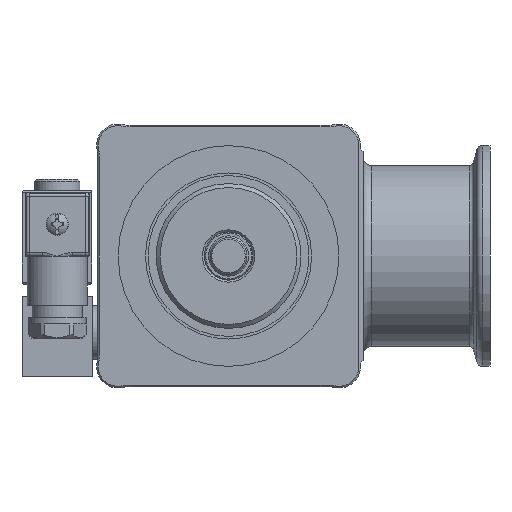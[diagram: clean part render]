
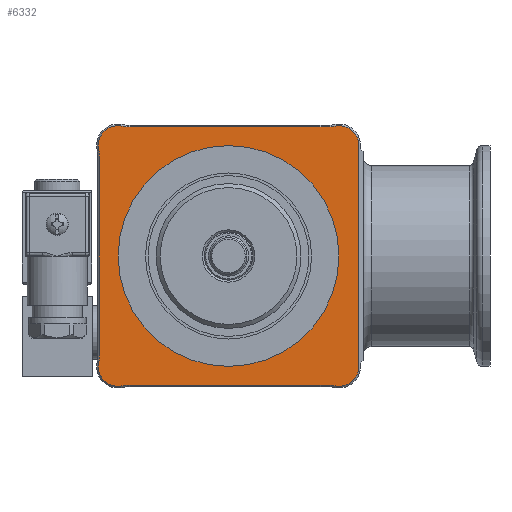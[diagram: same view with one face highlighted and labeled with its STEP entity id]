
A CAD part, front view. The second image highlights one B-rep face of the part: STEP entity #6332.
In plain terms, the highlighted planar face has unit normal (0, -1, 0).
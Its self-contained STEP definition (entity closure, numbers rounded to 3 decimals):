
#2078=LINE('',#21281,#3162);
#2079=LINE('',#21287,#3163);
#2080=LINE('',#21295,#3164);
#2081=LINE('',#21303,#3165);
#3162=VECTOR('',#17529,1.);
#3163=VECTOR('',#17534,1.);
#3164=VECTOR('',#17541,1.);
#3165=VECTOR('',#17548,1.);
#5822=FACE_BOUND('',#8128,.T.);
#5823=FACE_BOUND('',#8129,.T.);
#6332=ADVANCED_FACE('',(#5822,#5823),#7059,.F.);
#7059=PLANE('',#16023);
#8128=EDGE_LOOP('',(#9287));
#8129=EDGE_LOOP('',(#9288,#9289,#9290,#9291,#9292,#9293,#9294,#9295,#9296,
#9297,#9298,#9299,#9300,#9301));
#9287=ORIENTED_EDGE('',*,*,#13791,.T.);
#9288=ORIENTED_EDGE('',*,*,#13792,.T.);
#9289=ORIENTED_EDGE('',*,*,#13793,.T.);
#9290=ORIENTED_EDGE('',*,*,#13794,.T.);
#9291=ORIENTED_EDGE('',*,*,#13795,.T.);
#9292=ORIENTED_EDGE('',*,*,#13796,.T.);
#9293=ORIENTED_EDGE('',*,*,#13797,.T.);
#9294=ORIENTED_EDGE('',*,*,#13798,.T.);
#9295=ORIENTED_EDGE('',*,*,#13799,.T.);
#9296=ORIENTED_EDGE('',*,*,#13800,.T.);
#9297=ORIENTED_EDGE('',*,*,#13801,.T.);
#9298=ORIENTED_EDGE('',*,*,#13802,.T.);
#9299=ORIENTED_EDGE('',*,*,#13803,.T.);
#9300=ORIENTED_EDGE('',*,*,#13804,.T.);
#9301=ORIENTED_EDGE('',*,*,#13805,.T.);
#12572=VERTEX_POINT('',#21277);
#12573=VERTEX_POINT('',#21279);
#12574=VERTEX_POINT('',#21280);
#12575=VERTEX_POINT('',#21282);
#12576=VERTEX_POINT('',#21284);
#12577=VERTEX_POINT('',#21286);
#12578=VERTEX_POINT('',#21288);
#12579=VERTEX_POINT('',#21290);
#12580=VERTEX_POINT('',#21292);
#12581=VERTEX_POINT('',#21294);
#12582=VERTEX_POINT('',#21296);
#12583=VERTEX_POINT('',#21298);
#12584=VERTEX_POINT('',#21300);
#12585=VERTEX_POINT('',#21302);
#12586=VERTEX_POINT('',#21304);
#13791=EDGE_CURVE('',#12572,#12572,#15412,.T.);
#13792=EDGE_CURVE('',#12573,#12574,#15413,.T.);
#13793=EDGE_CURVE('',#12574,#12575,#2078,.T.);
#13794=EDGE_CURVE('',#12575,#12576,#15414,.T.);
#13795=EDGE_CURVE('',#12576,#12577,#15415,.T.);
#13796=EDGE_CURVE('',#12577,#12578,#2079,.T.);
#13797=EDGE_CURVE('',#12578,#12579,#15416,.T.);
#13798=EDGE_CURVE('',#12579,#12580,#15417,.T.);
#13799=EDGE_CURVE('',#12580,#12581,#15418,.T.);
#13800=EDGE_CURVE('',#12581,#12582,#2080,.T.);
#13801=EDGE_CURVE('',#12582,#12583,#15419,.T.);
#13802=EDGE_CURVE('',#12583,#12584,#15420,.T.);
#13803=EDGE_CURVE('',#12584,#12585,#15421,.T.);
#13804=EDGE_CURVE('',#12585,#12586,#2081,.T.);
#13805=EDGE_CURVE('',#12586,#12573,#15422,.T.);
#15412=CIRCLE('',#16012,24.5);
#15413=CIRCLE('',#16013,4.9);
#15414=CIRCLE('',#16014,4.9);
#15415=CIRCLE('',#16015,10.4);
#15416=CIRCLE('',#16016,10.4);
#15417=CIRCLE('',#16017,4.9);
#15418=CIRCLE('',#16018,10.4);
#15419=CIRCLE('',#16019,10.4);
#15420=CIRCLE('',#16020,4.9);
#15421=CIRCLE('',#16021,10.4);
#15422=CIRCLE('',#16022,10.4);
#16012=AXIS2_PLACEMENT_3D('',#21276,#17525,#17526);
#16013=AXIS2_PLACEMENT_3D('',#21278,#17527,#17528);
#16014=AXIS2_PLACEMENT_3D('',#21283,#17530,#17531);
#16015=AXIS2_PLACEMENT_3D('',#21285,#17532,#17533);
#16016=AXIS2_PLACEMENT_3D('',#21289,#17535,#17536);
#16017=AXIS2_PLACEMENT_3D('',#21291,#17537,#17538);
#16018=AXIS2_PLACEMENT_3D('',#21293,#17539,#17540);
#16019=AXIS2_PLACEMENT_3D('',#21297,#17542,#17543);
#16020=AXIS2_PLACEMENT_3D('',#21299,#17544,#17545);
#16021=AXIS2_PLACEMENT_3D('',#21301,#17546,#17547);
#16022=AXIS2_PLACEMENT_3D('',#21305,#17549,#17550);
#16023=AXIS2_PLACEMENT_3D('',#21306,#17551,#17552);
#17525=DIRECTION('',(0.,1.,0.));
#17526=DIRECTION('',(0.,0.,1.));
#17527=DIRECTION('',(0.,-1.,0.));
#17528=DIRECTION('',(0.,0.,1.));
#17529=DIRECTION('',(0.,0.,1.));
#17530=DIRECTION('',(0.,-1.,0.));
#17531=DIRECTION('',(0.,0.,1.));
#17532=DIRECTION('',(0.,1.,0.));
#17533=DIRECTION('',(0.,0.,1.));
#17534=DIRECTION('',(-1.,0.,0.));
#17535=DIRECTION('',(0.,1.,0.));
#17536=DIRECTION('',(0.,0.,1.));
#17537=DIRECTION('',(0.,-1.,0.));
#17538=DIRECTION('',(0.,0.,1.));
#17539=DIRECTION('',(0.,1.,0.));
#17540=DIRECTION('',(0.,0.,1.));
#17541=DIRECTION('',(0.,0.,-1.));
#17542=DIRECTION('',(0.,1.,0.));
#17543=DIRECTION('',(0.,0.,1.));
#17544=DIRECTION('',(0.,-1.,0.));
#17545=DIRECTION('',(0.,0.,1.));
#17546=DIRECTION('',(0.,1.,0.));
#17547=DIRECTION('',(0.,0.,1.));
#17548=DIRECTION('',(1.,0.,0.));
#17549=DIRECTION('',(0.,1.,0.));
#17550=DIRECTION('',(0.,0.,1.));
#17551=DIRECTION('',(0.,1.,0.));
#17552=DIRECTION('',(0.,0.,1.));
#21276=CARTESIAN_POINT('',(0.,34.,0.));
#21277=CARTESIAN_POINT('',(0.,34.,24.5));
#21278=CARTESIAN_POINT('',(27.5,34.,-27.5));
#21279=CARTESIAN_POINT('',(26.534,34.,-32.304));
#21280=CARTESIAN_POINT('',(32.4,34.,-27.5));
#21281=CARTESIAN_POINT('',(32.4,34.,27.5));
#21282=CARTESIAN_POINT('',(32.4,34.,27.5));
#21283=CARTESIAN_POINT('',(27.5,34.,27.5));
#21284=CARTESIAN_POINT('',(26.534,34.,32.304));
#21285=CARTESIAN_POINT('',(24.485,34.,42.5));
#21286=CARTESIAN_POINT('',(24.485,34.,32.1));
#21287=CARTESIAN_POINT('',(-24.485,34.,32.1));
#21288=CARTESIAN_POINT('',(-24.485,34.,32.1));
#21289=CARTESIAN_POINT('',(-24.485,34.,42.5));
#21290=CARTESIAN_POINT('',(-26.534,34.,32.304));
#21291=CARTESIAN_POINT('',(-27.5,34.,27.5));
#21292=CARTESIAN_POINT('',(-32.304,34.,26.534));
#21293=CARTESIAN_POINT('',(-42.5,34.,24.485));
#21294=CARTESIAN_POINT('',(-32.1,34.,24.485));
#21295=CARTESIAN_POINT('',(-32.1,34.,-24.485));
#21296=CARTESIAN_POINT('',(-32.1,34.,-24.485));
#21297=CARTESIAN_POINT('',(-42.5,34.,-24.485));
#21298=CARTESIAN_POINT('',(-32.304,34.,-26.534));
#21299=CARTESIAN_POINT('',(-27.5,34.,-27.5));
#21300=CARTESIAN_POINT('',(-26.534,34.,-32.304));
#21301=CARTESIAN_POINT('',(-24.485,34.,-42.5));
#21302=CARTESIAN_POINT('',(-24.485,34.,-32.1));
#21303=CARTESIAN_POINT('',(24.485,34.,-32.1));
#21304=CARTESIAN_POINT('',(24.485,34.,-32.1));
#21305=CARTESIAN_POINT('',(24.485,34.,-42.5));
#21306=CARTESIAN_POINT('',(-33.8,34.,-33.8));
